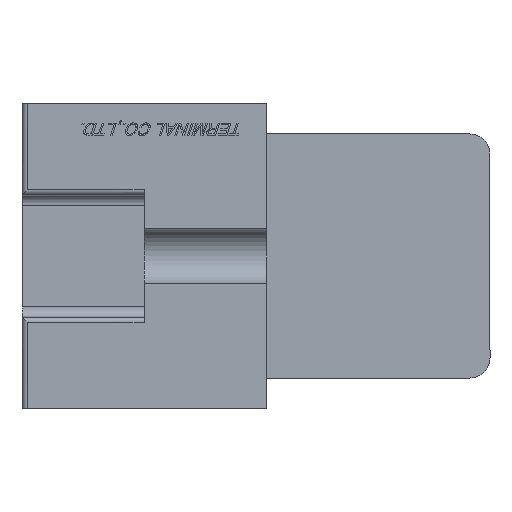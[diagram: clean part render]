
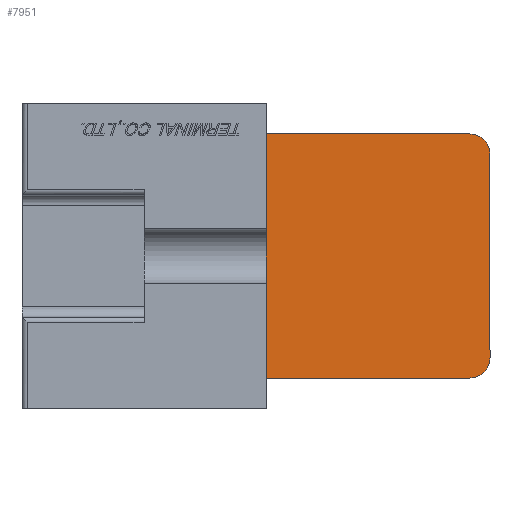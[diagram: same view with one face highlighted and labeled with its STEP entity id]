
A CAD part, left-side view. The second image highlights one B-rep face of the part: STEP entity #7951.
In plain terms, the highlighted planar face has unit normal (-1, 0, 0).
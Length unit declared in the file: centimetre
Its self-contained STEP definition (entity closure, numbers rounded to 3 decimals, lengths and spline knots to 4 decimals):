
#644=PLANE('',#13827);
#799=CIRCLE('',#13766,0.2);
#801=CIRCLE('',#13770,0.2);
#1582=VERTEX_POINT('',#13009);
#1583=VERTEX_POINT('',#13011);
#1594=VERTEX_POINT('',#13102);
#1595=VERTEX_POINT('',#13106);
#1622=VERTEX_POINT('',#13223);
#1623=VERTEX_POINT('',#13225);
#2300=VECTOR('',#9415,1.);
#2337=VECTOR('',#9547,1.);
#2339=VECTOR('',#9550,1.);
#2340=VECTOR('',#9552,1.);
#2997=LINE('',#13101,#2300);
#3034=LINE('',#13224,#2337);
#3036=LINE('',#13228,#2339);
#3037=LINE('',#13230,#2340);
#4077=EDGE_CURVE('',#1582,#1583,#799,.T.);
#4090=EDGE_CURVE('',#1594,#1583,#2997,.T.);
#4092=EDGE_CURVE('',#1594,#1595,#801,.T.);
#4155=EDGE_CURVE('',#1622,#1623,#3034,.T.);
#4157=EDGE_CURVE('',#1622,#1595,#3036,.T.);
#4158=EDGE_CURVE('',#1623,#1582,#3037,.T.);
#6403=ORIENTED_EDGE('',*,*,#4077,.F.);
#6404=ORIENTED_EDGE('',*,*,#4158,.F.);
#6405=ORIENTED_EDGE('',*,*,#4155,.F.);
#6406=ORIENTED_EDGE('',*,*,#4157,.T.);
#6407=ORIENTED_EDGE('',*,*,#4092,.F.);
#6408=ORIENTED_EDGE('',*,*,#4090,.T.);
#6950=EDGE_LOOP('',(#6403,#6404,#6405,#6406,#6407,#6408));
#7481=FACE_BOUND('',#6950,.T.);
#7951=ADVANCED_FACE('',(#7481),#644,.T.);
#9402=DIRECTION('',(1.,0.,0.));
#9403=DIRECTION('',(0.,-0.141,-0.141));
#9415=DIRECTION('',(0.,-1.,0.));
#9419=DIRECTION('',(1.,0.,0.));
#9420=DIRECTION('',(0.,0.141,-0.141));
#9547=DIRECTION('',(0.,-1.,0.));
#9550=DIRECTION('',(0.,0.,-1.));
#9551=DIRECTION('',(-1.,0.,0.));
#9552=DIRECTION('',(0.,0.,-1.));
#13009=CARTESIAN_POINT('',(1.3,-1.2,-2.));
#13010=CARTESIAN_POINT('',(1.3,-1.,-2.));
#13011=CARTESIAN_POINT('',(1.3,-1.,-2.2));
#13101=CARTESIAN_POINT('',(1.3,1.2,-2.2));
#13102=CARTESIAN_POINT('',(1.3,1.,-2.2));
#13105=CARTESIAN_POINT('',(1.3,1.,-2.));
#13106=CARTESIAN_POINT('',(1.3,1.2,-2.));
#13223=CARTESIAN_POINT('',(1.3,1.2,0.));
#13224=CARTESIAN_POINT('',(1.3,0.,0.));
#13225=CARTESIAN_POINT('',(1.3,-1.2,0.));
#13228=CARTESIAN_POINT('',(1.3,1.2,0.));
#13229=CARTESIAN_POINT('',(1.3,0.,0.));
#13230=CARTESIAN_POINT('',(1.3,-1.2,0.));
#13766=AXIS2_PLACEMENT_3D('',#13010,#9402,#9403);
#13770=AXIS2_PLACEMENT_3D('',#13105,#9419,#9420);
#13827=AXIS2_PLACEMENT_3D('',#13229,#9551,$);
